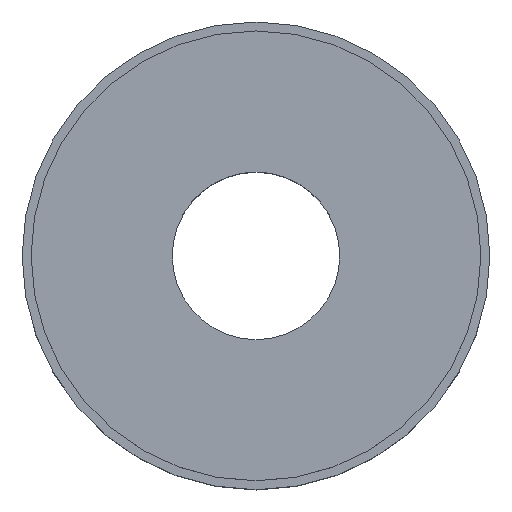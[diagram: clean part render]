
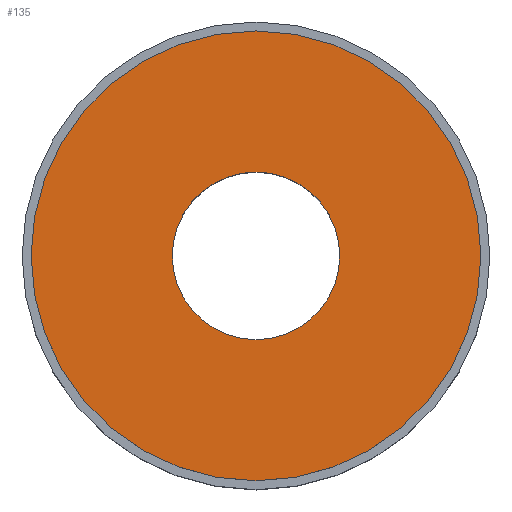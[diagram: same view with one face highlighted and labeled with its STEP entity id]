
A CAD part, top view. The second image highlights one B-rep face of the part: STEP entity #135.
In plain terms, the highlighted planar face has unit normal (0, 0, 1).
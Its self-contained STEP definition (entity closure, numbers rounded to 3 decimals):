
#14=PLANE($,#160);
#36=FACE_BOUND($,#66,.T.);
#37=FACE_BOUND($,#67,.T.);
#66=EDGE_LOOP($,(#121));
#67=EDGE_LOOP($,(#122));
#78=CIRCLE($,#155,25.);
#79=CIRCLE($,#157,9.316);
#89=VERTEX_POINT($,#232);
#90=VERTEX_POINT($,#235);
#100=EDGE_CURVE($,#89,#89,#78,.T.);
#101=EDGE_CURVE($,#90,#90,#79,.T.);
#121=ORIENTED_EDGE($,*,*,#101,.T.);
#122=ORIENTED_EDGE($,*,*,#100,.F.);
#135=ADVANCED_FACE($,(#36,#37),#14,.F.);
#155=AXIS2_PLACEMENT_3D($,#233,#194,#195);
#157=AXIS2_PLACEMENT_3D($,#236,#198,#199);
#160=AXIS2_PLACEMENT_3D($,#240,#204,#205);
#194=DIRECTION('center_axis',(0.,0.,-1.));
#195=DIRECTION('ref_axis',(-1.,0.,0.));
#198=DIRECTION('center_axis',(0.,0.,-1.));
#199=DIRECTION('ref_axis',(1.,0.,0.));
#204=DIRECTION('center_axis',(0.,0.,-1.));
#205=DIRECTION('ref_axis',(-1.,0.,0.));
#232=CARTESIAN_POINT('',(25.,0.,60.));
#233=CARTESIAN_POINT('Origin',(0.,0.,60.));
#235=CARTESIAN_POINT('',(9.316,0.,60.));
#236=CARTESIAN_POINT('Origin',(0.,0.,60.));
#240=CARTESIAN_POINT('Origin',(0.,0.,60.));
